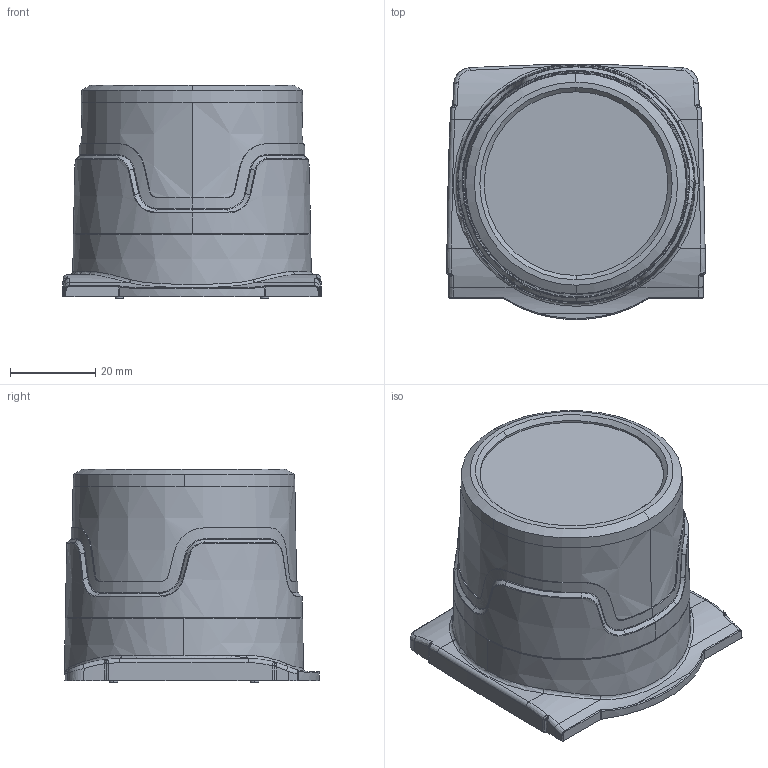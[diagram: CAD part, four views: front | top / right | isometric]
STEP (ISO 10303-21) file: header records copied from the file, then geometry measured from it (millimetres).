
FILE_DESCRIPTION (( 'STEP AP203' ), '1' );
FILE_NAME ('COV-7000-CMNT.STEP', '2021-04-16T08:09:19', ( '' ), ( '' ), 'SwSTEP 2.0', 'SolidWorks 2021', '' );
FILE_SCHEMA (( 'CONFIG_CONTROL_DESIGN' ));
Length unit declared in the file: millimetre
Products named in the file (1): COV-7000-CMNT
Bounding box: 60.5 x 59.68 x 49.92 mm (x, y, z)
Volume: 30305.1 mm3; surface area: 29145.2 mm2
Topology: 1 solids, 1 shells, 620 faces, 1573 edges, 968 vertices
Faces by surface type: plane 174, bspline 160, cylinder 127, cone 95, torus 64
Entity records: 24821 total; most frequent: CARTESIAN_POINT 11018, ORIENTED_EDGE 3122, DIRECTION 2554, EDGE_CURVE 1561, AXIS2_PLACEMENT_3D 1008, VERTEX_POINT 968, EDGE_LOOP 653, FACE_OUTER_BOUND 620
